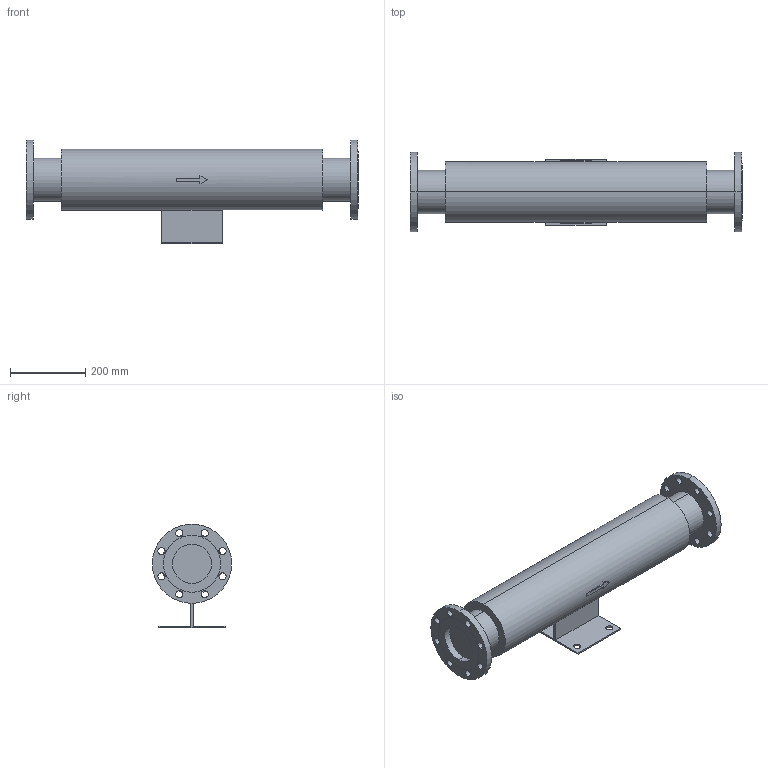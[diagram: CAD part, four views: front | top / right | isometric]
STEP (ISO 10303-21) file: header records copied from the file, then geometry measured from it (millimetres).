
FILE_DESCRIPTION( (''), '2;1');
FILE_NAME ('PC1027.12084.EB-2J　100A_4100.stp','2025-07-29T14:24:44',(''),(''),'spGate 20.6.3 (****-****-****-****)','','');
FILE_SCHEMA (('AUTOMOTIVE_DESIGN'));
Length unit declared in the file: millimetre
Bounding box: 880 x 210 x 275 mm (x, y, z)
Volume: 16848300.6 mm3; surface area: 673470.7 mm2
Topology: 1 solids, 1 shells, 93 faces, 242 edges, 162 vertices
Faces by surface type: cylinder 58, plane 35
Entity records: 4849 total; most frequent: CARTESIAN_POINT 563, DIRECTION 492, ORIENTED_EDGE 484, COLOUR_RGB 336, PRESENTATION_STYLE_ASSIGNMENT 336, STYLED_ITEM 336, EDGE_CURVE 242, DRAUGHTING_PRE_DEFINED_CURVE_FONT 242
